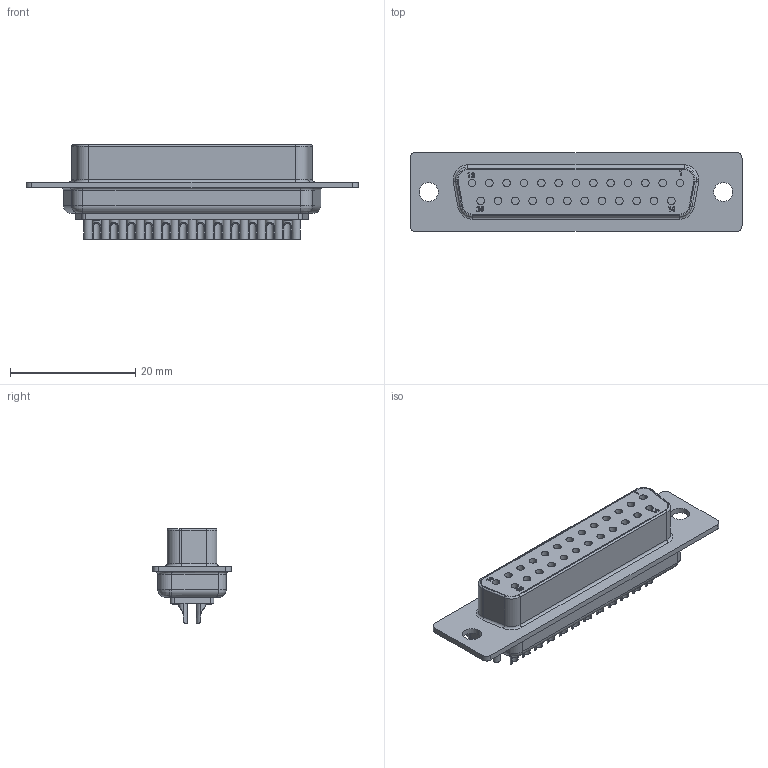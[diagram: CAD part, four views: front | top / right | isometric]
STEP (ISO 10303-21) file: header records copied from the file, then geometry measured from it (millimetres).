
FILE_DESCRIPTION(('FreeCAD Model'),'2;1');
FILE_NAME('C:/Users/Metaltex-99/Desktop/DBSF-25.stp', '2020-12-23T08:18:49',('Engenharia Metaltex'),('Metaltex'), 'Open CASCADE STEP processor 7.3','FreeCAD','Unknown');
FILE_SCHEMA(('AUTOMOTIVE_DESIGN { 1 0 10303 214 1 1 1 1 }'));
Products named in the file (1): DBSF-25
Bounding box: 53.01 x 12.6 x 15.27 mm (x, y, z)
Volume: 4167.4 mm3; surface area: 4593.1 mm2
Topology: 1 solids, 1 shells, 702 faces, 1714 edges, 1098 vertices
Faces by surface type: cylinder 320, plane 308, bspline 54, torus 15, revolution 5
Entity records: 58028 total; most frequent: CARTESIAN_POINT 25075, DIRECTION 5648, ORIENTED_EDGE 3428, PCURVE 3428, DEFINITIONAL_REPRESENTATION 3428, LINE 3292, VECTOR 3292, EDGE_CURVE 1714
